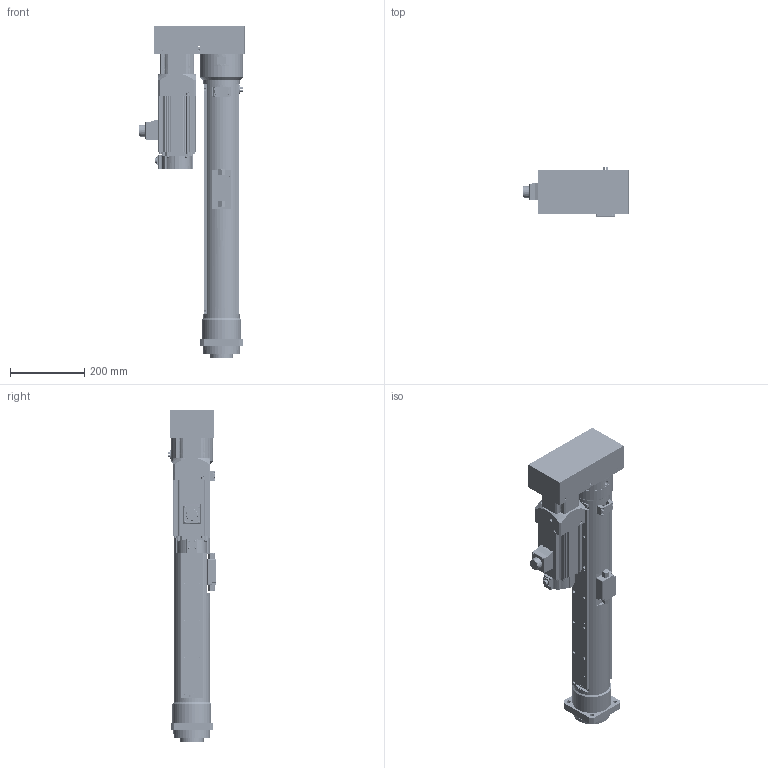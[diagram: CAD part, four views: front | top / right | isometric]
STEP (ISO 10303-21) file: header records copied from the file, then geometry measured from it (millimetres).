
FILE_DESCRIPTION( ('This file contains a STEP AP42 implementation' ,'as created by ZW3D STEP Interface translator.') ,'2;1' );
FILE_NAME( 'OACIS-DC-P020-550-200-A6V220_V20.01.stp' ,'25 421.134644', (''), ('ZWCAD Software Co.'), 'Version 1.0', 'ZW3D to STEP translator', '' );
FILE_SCHEMA(('AUTOMOTIVE_DESIGN { 1 0 10303 214 1 1 1 1 }'));
Length unit declared in the file: millimetre
Products named in the file (2): 0; OACIS-DC-P020-550-200-A6V220_V20.01001
Bounding box: 283 x 131.5 x 894.5 mm (x, y, z)
Volume: 9107024.4 mm3; surface area: 1603898.8 mm2
Topology: 46 solids, 55 shells, 3066 faces, 7923 edges, 5180 vertices
Faces by surface type: cylinder 1393, plane 1174, cone 273, bspline 119, torus 91, sphere 16
Full cylindrical faces by diameter (mm): 1.6 x8, 2.459 x5, 2.75 x4, 3.2 x5, 3.242 x10, 3.3 x90, 4 x8, 4.134 x12, 4.2 x4, 4.3 x36, 4.5 x4, 5 x42, 5.5 x6, 6.5 x4, 6.6 x12, 6.8 x36, 7 x20, 8 x46, 8.4 x8, 8.5 x25, 9 x4, 9.5 x2, 11 x12, 12 x1, 14.8 x1, 15 x8, 15.5 x2, 16.5 x1, 18 x5, 18.917 x2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
Entity records: 104287 total; most frequent: CARTESIAN_POINT 24243, DIRECTION 16979, ORIENTED_EDGE 15541, EDGE_CURVE 7806, AXIS2_PLACEMENT_3D 6748, VERTEX_POINT 5111, CIRCLE 3779, EDGE_LOOP 3701
